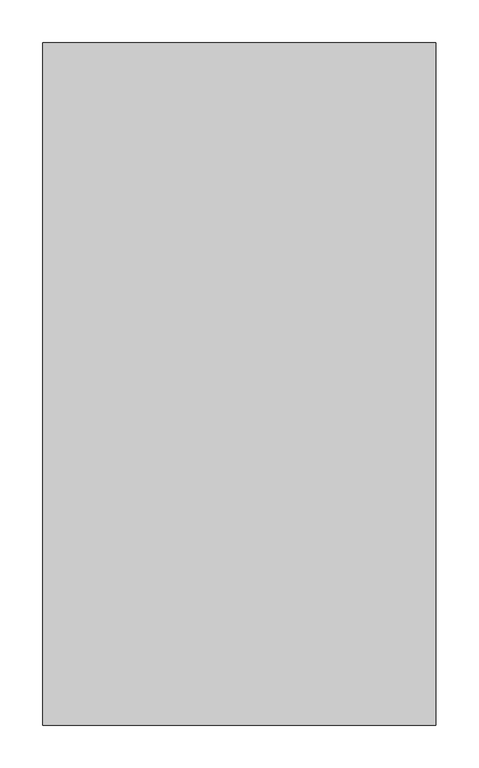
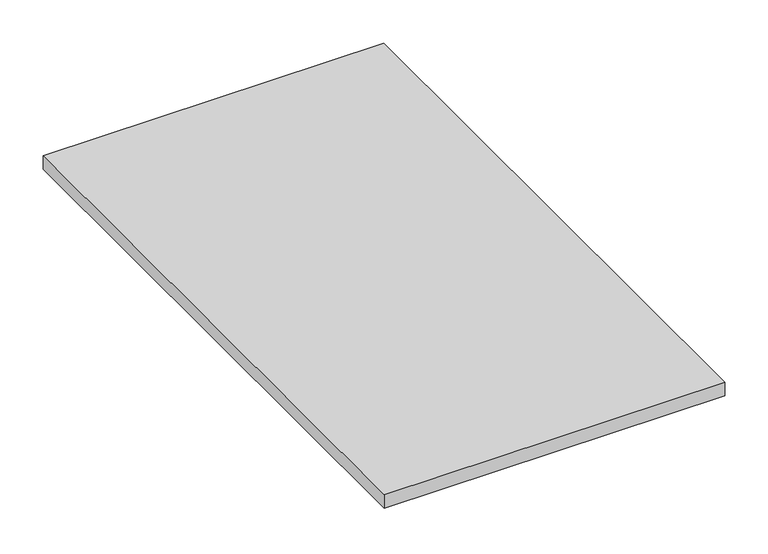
"""IFC4 building model written with IfcOpenShell, lengths in millimetres: furniture geometry, Geiger_GeigerOneCasegoods_VerticalStorageTopCapSingleSidedApplication : Stone 18Wx 61.25Dx 0.75H."""

from ifc_helpers import new_model, si_unit, frame, origin, origin_with_axes, place, context, project, spatial, polyline, outline, extrude, source, transform, mapped, element, save


def furniture_354f377b(model_context):
    return source(origin(), model_context, "Body", "SweptSolid", [
        extrude(outline(polyline([(457.2, 0.0), (457.2, -793.75), (0.0, -793.75), (0.0, 0.0), (457.2, 0.0)])), frame((0.0, 0.0, 3.2), z_axis=(0.0, 0.0, 1.0), x_axis=(1.0, 0.0, 0.0)), (0.0, 0.0, 1.0), 19.0),
        extrude(outline(polyline([(450.85, -6.35), (450.85, -765.75), (6.35, -765.75), (6.35, -6.35), (450.85, -6.35)])), origin_with_axes(), (0.0, 0.0, 1.0), 3.2),
    ])


if __name__ == "__main__":
    model = new_model("IFC4")
    model_context = context("Model", 3, world=origin())
    ifc_project = project(units=[si_unit("LENGTHUNIT", "METRE", prefix="MILLI")], contexts=[model_context])
    site = spatial("IfcSite", under=ifc_project)
    building = spatial("IfcBuilding", under=site)
    placement = place(None, origin())
    furniture_shape = furniture_354f377b(model_context)
    element("IfcFurniture", 1, ObjectType="Geiger_GeigerOneCasegoods_VerticalStorageTopCapSingleSidedApplication : Stone 18Wx 61.25Dx 0.75H", at=placement, inside=building, context=model_context, shape_type="MappedRepresentation", body=[
        mapped(furniture_shape, transform((0.0, 0.0, 0.0), x_axis=(1.0, 0.0, 0.0), y_axis=(0.0, 1.0, 0.0), z_axis=(0.0, 0.0, 1.0))),
    ])
    save(model, "model.ifc")
